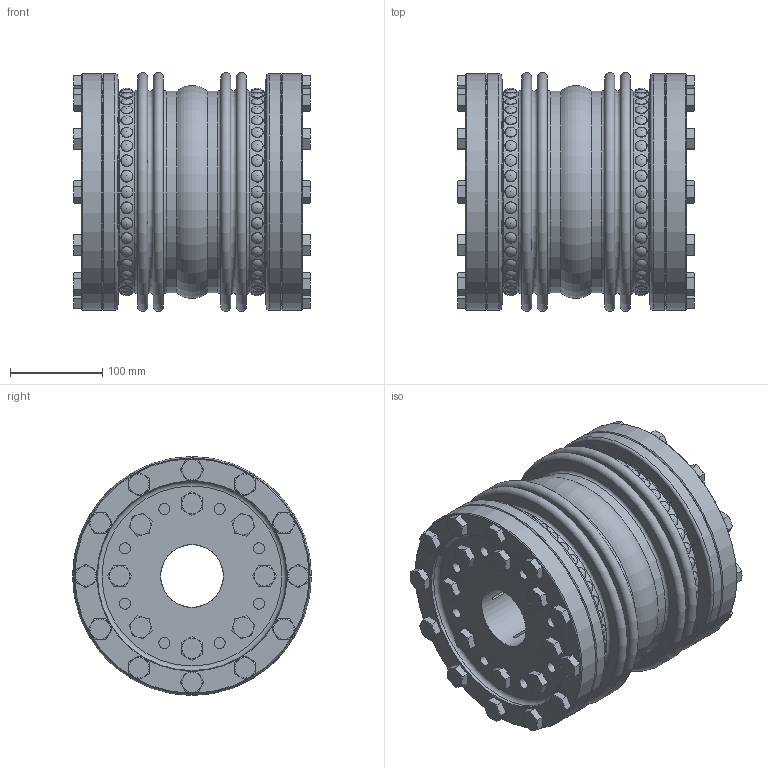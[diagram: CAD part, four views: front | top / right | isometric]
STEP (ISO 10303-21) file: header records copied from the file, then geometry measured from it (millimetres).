
FILE_DESCRIPTION(/* description */ ('Unknown'),/* implementation_level */ '2;1');
FILE_NAME(/* name */ 'KXL 9 B-B',/* time_stamp */ '2020-07-03T10:52:01+02:00',/* author */ ('Unknown'),/* organization */ ('Unknown'),/* preprocessor_version */ 'ST-DEVELOPER v16.7',/* originating_system */ 'DEX',/* authorisation */ $);
FILE_SCHEMA (('TECHNICAL_DATA_PACKAGING','AUTOMOTIVE_DESIGN {1 0 10303 214 3 1 1}'));
Length unit declared in the file: millimetre
Products named in the file (1): KXL 9 B-B2
Bounding box: 256.65 x 258.9 x 258.9 mm (x, y, z)
Volume: 5651778.9 mm3; surface area: 1050159.1 mm2
Topology: 1 solids, 41 shells, 1530 faces, 3481 edges, 2289 vertices
Faces by surface type: plane 654, cone 308, cylinder 292, torus 276
Full cylindrical faces by diameter (mm): 6.4 x80, 11.835 x16, 12 x16, 14 x40, 15 x40, 20.5 x40, 68 x2, 190 x4, 193 x2, 201 x2, 205 x4, 213.7 x2, 214 x2, 216 x2, 218.5 x2, 218.8 x2, 256 x4
Entity records: 38530 total; most frequent: CARTESIAN_POINT 9275, DIRECTION 5902, ORIENTED_EDGE 4888, AXIS2_PLACEMENT_3D 2671, FACE_BOUND 2612, EDGE_LOOP 2516, EDGE_CURVE 2444, VERTEX_POINT 1948
